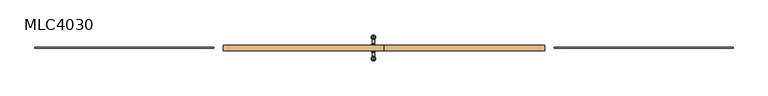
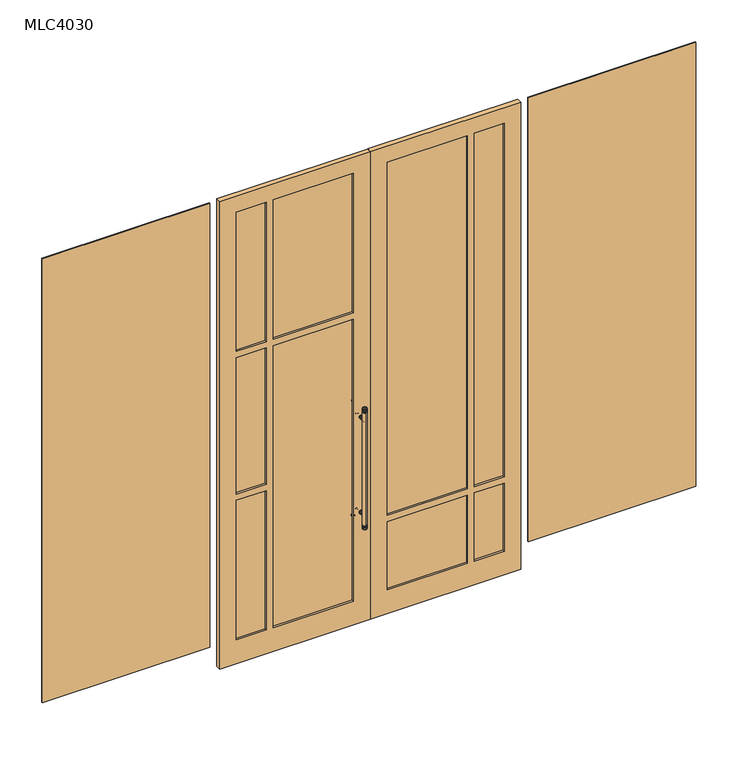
"""IFC4 building model written with IfcOpenShell, lengths in millimetres: door geometry, 双面嵌板连窗玻璃门 4 : MLC4030."""

from ifc_helpers import new_model, si_unit, point, frame, origin, place, context, project, spatial, polyline, circle_curve, ellipse_curve, trimmed, outline, extrude, source, transform, mapped, element, save
from ifc_brep_helpers import plane_surface, cylinder_surface, revolved_surface, advanced_brep


def mlc4030_f3af6898(model_context):
    return source(origin(), model_context, "Body", "SolidModel", [
        advanced_brep(
        [(-59.0, 15.0, 1300.0), (-67.0, 15.0, 1300.0), (-51.0, 15.0, 1300.0), (-51.0, 24.0, 1300.0), (-67.0, 24.0, 1300.0), (-59.0, 24.0, 1300.0), (-51.0, 21.0, 1300.0), (-67.0, 21.0, 1300.0), (-51.0, 18.0, 1300.0), (-67.0, 18.0, 1300.0)],
        [
            (0, 1),
            (1, 2, circle_curve(frame((-59.0, 15.0, 1300.0), z_axis=(0.0, -1.0, 0.0), x_axis=(-1.0, 0.0, 0.0)), 8.0)),
            (2, 0),
            (2, 1, circle_curve(frame((-59.0, 15.0, 1300.0), z_axis=(0.0, -1.0, 0.0), x_axis=(-1.0, 0.0, 0.0)), 8.0)),
            (3, 4, circle_curve(frame((-59.0, 24.0, 1300.0), z_axis=(0.0, 1.0, 0.0), x_axis=(-1.0, 0.0, 0.0)), 8.0)),
            (4, 5),
            (5, 3),
            (4, 3, circle_curve(frame((-59.0, 24.0, 1300.0), z_axis=(0.0, 1.0, 0.0), x_axis=(-1.0, 0.0, 0.0)), 8.0)),
            (6, 7, circle_curve(frame((-59.0, 21.0, 1300.0), z_axis=(0.0, 1.0, 0.0), x_axis=(-1.0, 0.0, 0.0)), 8.0)),
            (7, 4, circle_curve(frame((-65.6771243, 22.5, 1300.0), z_axis=(0.0, 0.0, -1.0), x_axis=(-1.0, 0.0, 0.0)), 2.0)),
            (3, 6, circle_curve(frame((-52.3228757, 22.5, 1300.0), z_axis=(0.0, 0.0, -1.0), x_axis=(1.0, 0.0, 0.0)), 2.0)),
            (7, 6, circle_curve(frame((-59.0, 21.0, 1300.0), z_axis=(0.0, 1.0, 0.0), x_axis=(-1.0, 0.0, 0.0)), 8.0)),
            (8, 9, circle_curve(frame((-59.0, 18.0, 1300.0), z_axis=(0.0, 1.0, 0.0), x_axis=(-1.0, 0.0, 0.0)), 8.0)),
            (9, 7, circle_curve(frame((-65.6771243, 19.5, 1300.0), z_axis=(0.0, 0.0, -1.0), x_axis=(-1.0, 0.0, 0.0)), 2.0)),
            (6, 8, circle_curve(frame((-52.3228757, 19.5, 1300.0), z_axis=(0.0, 0.0, -1.0), x_axis=(1.0, 0.0, 0.0)), 2.0)),
            (9, 8, circle_curve(frame((-59.0, 18.0, 1300.0), z_axis=(0.0, 1.0, 0.0), x_axis=(-1.0, 0.0, 0.0)), 8.0)),
            (1, 9, circle_curve(frame((-65.6771243, 16.5, 1300.0), z_axis=(0.0, 0.0, -1.0), x_axis=(-1.0, 0.0, 0.0)), 2.0)),
            (8, 2, circle_curve(frame((-52.3228757, 16.5, 1300.0), z_axis=(0.0, 0.0, -1.0), x_axis=(1.0, 0.0, 0.0)), 2.0)),
        ],
        [
            plane_surface(frame((-59.0, 15.0, 1300.0), z_axis=(0.0, -1.0, 0.0), x_axis=(-1.0, 0.0, 0.0))),
            plane_surface(frame((-59.0, 24.0, 1300.0), z_axis=(0.0, 1.0, 0.0), x_axis=(-1.0, 0.0, 0.0))),
            revolved_surface(trimmed(ellipse_curve(frame((-65.6771243, 22.5, 1300.0), z_axis=(0.0, 0.0, 1.0), x_axis=(-1.0, 0.0, 0.0)), 2.0, 2.0), [point((-67.0, 24.0, 1300.0))], [point((-67.0, 21.0, 1300.0))], True, "CARTESIAN"), (-59.0, -105.0, 1300.0), (0.0, -1.0, 0.0)),
            revolved_surface(trimmed(ellipse_curve(frame((-65.6771243, 19.5, 1300.0), z_axis=(0.0, 0.0, 1.0), x_axis=(-1.0, 0.0, 0.0)), 2.0, 2.0), [point((-67.0, 21.0, 1300.0))], [point((-67.0, 18.0, 1300.0))], True, "CARTESIAN"), (-59.0, -105.0, 1300.0), (0.0, -1.0, 0.0)),
            revolved_surface(trimmed(ellipse_curve(frame((-65.6771243, 16.5, 1300.0), z_axis=(0.0, 0.0, 1.0), x_axis=(-1.0, 0.0, 0.0)), 2.0, 2.0), [point((-67.0, 18.0, 1300.0))], [point((-67.0, 15.0, 1300.0))], True, "CARTESIAN"), (-59.0, -105.0, 1300.0), (0.0, -1.0, 0.0)),
        ],
        [
            (0, [[1, 2, 3]]),
            (0, [[-3, 4, -1]]),
            (1, [[5, 6, 7]]),
            (1, [[8, -7, -6]]),
            (2, [[9, 10, -5, 11]]),
            (2, [[12, -11, -8, -10]]),
            (3, [[13, 14, -9, 15]]),
            (3, [[16, -15, -12, -14]]),
            (4, [[-2, 17, -13, 18]]),
            (4, [[-4, -18, -16, -17]]),
        ],
    ),
        advanced_brep(
        [(-51.0, -18.0, 1300.0), (-67.0, -18.0, 1300.0), (-67.0, -15.0, 1300.0), (-51.0, -15.0, 1300.0), (-51.0, -21.0, 1300.0), (-67.0, -21.0, 1300.0), (-51.0, -24.0, 1300.0), (-67.0, -24.0, 1300.0), (-59.0, -24.0, 1300.0), (-59.0, -15.0, 1300.0)],
        [
            (0, 1, circle_curve(frame((-59.0, -18.0, 1300.0), z_axis=(0.0, 1.0, 0.0), x_axis=(-1.0, 0.0, 0.0)), 8.0)),
            (1, 2, circle_curve(frame((-65.6771243, -16.5, 1300.0), z_axis=(0.0, 0.0, -1.0), x_axis=(-1.0, 0.0, 0.0)), 2.0)),
            (2, 3, circle_curve(frame((-59.0, -15.0, 1300.0), z_axis=(0.0, -1.0, 0.0), x_axis=(-1.0, 0.0, 0.0)), 8.0)),
            (3, 0, circle_curve(frame((-52.3228757, -16.5, 1300.0), z_axis=(0.0, 0.0, -1.0), x_axis=(1.0, 0.0, 0.0)), 2.0)),
            (1, 0, circle_curve(frame((-59.0, -18.0, 1300.0), z_axis=(0.0, 1.0, 0.0), x_axis=(-1.0, 0.0, 0.0)), 8.0)),
            (3, 2, circle_curve(frame((-59.0, -15.0, 1300.0), z_axis=(0.0, -1.0, 0.0), x_axis=(-1.0, 0.0, 0.0)), 8.0)),
            (4, 5, circle_curve(frame((-59.0, -21.0, 1300.0), z_axis=(0.0, 1.0, 0.0), x_axis=(-1.0, 0.0, 0.0)), 8.0)),
            (5, 1, circle_curve(frame((-65.6771243, -19.5, 1300.0), z_axis=(0.0, 0.0, -1.0), x_axis=(-1.0, 0.0, 0.0)), 2.0)),
            (0, 4, circle_curve(frame((-52.3228757, -19.5, 1300.0), z_axis=(0.0, 0.0, -1.0), x_axis=(1.0, 0.0, 0.0)), 2.0)),
            (5, 4, circle_curve(frame((-59.0, -21.0, 1300.0), z_axis=(0.0, 1.0, 0.0), x_axis=(-1.0, 0.0, 0.0)), 8.0)),
            (6, 7, circle_curve(frame((-59.0, -24.0, 1300.0), z_axis=(0.0, 1.0, 0.0), x_axis=(-1.0, 0.0, 0.0)), 8.0)),
            (7, 5, circle_curve(frame((-65.6771243, -22.5, 1300.0), z_axis=(0.0, 0.0, -1.0), x_axis=(-1.0, 0.0, 0.0)), 2.0)),
            (4, 6, circle_curve(frame((-52.3228757, -22.5, 1300.0), z_axis=(0.0, 0.0, -1.0), x_axis=(1.0, 0.0, 0.0)), 2.0)),
            (7, 6, circle_curve(frame((-59.0, -24.0, 1300.0), z_axis=(0.0, 1.0, 0.0), x_axis=(-1.0, 0.0, 0.0)), 8.0)),
            (8, 7),
            (6, 8),
            (2, 9),
            (9, 3),
        ],
        [
            revolved_surface(trimmed(ellipse_curve(frame((-65.6771243, -16.5, 1300.0), z_axis=(0.0, 0.0, 1.0), x_axis=(-1.0, 0.0, 0.0)), 2.0, 2.0), [point((-67.0, -15.0, 1300.0))], [point((-67.0, -18.0, 1300.0))], True, "CARTESIAN"), (-59.0, -105.0, 1300.0), (0.0, -1.0, 0.0)),
            revolved_surface(trimmed(ellipse_curve(frame((-65.6771243, -19.5, 1300.0), z_axis=(0.0, 0.0, 1.0), x_axis=(-1.0, 0.0, 0.0)), 2.0, 2.0), [point((-67.0, -18.0, 1300.0))], [point((-67.0, -21.0, 1300.0))], True, "CARTESIAN"), (-59.0, -105.0, 1300.0), (0.0, -1.0, 0.0)),
            revolved_surface(trimmed(ellipse_curve(frame((-65.6771243, -22.5, 1300.0), z_axis=(0.0, 0.0, 1.0), x_axis=(-1.0, 0.0, 0.0)), 2.0, 2.0), [point((-67.0, -21.0, 1300.0))], [point((-67.0, -24.0, 1300.0))], True, "CARTESIAN"), (-59.0, -105.0, 1300.0), (0.0, -1.0, 0.0)),
            plane_surface(frame((-59.0, -24.0, 1300.0), z_axis=(0.0, -1.0, 0.0), x_axis=(-1.0, 0.0, 0.0))),
            plane_surface(frame((-59.0, -15.0, 1300.0), z_axis=(0.0, 1.0, 0.0), x_axis=(-1.0, 0.0, 0.0))),
        ],
        [
            (0, [[1, 2, 3, 4]]),
            (0, [[5, -4, 6, -2]]),
            (1, [[7, 8, -1, 9]]),
            (1, [[10, -9, -5, -8]]),
            (2, [[11, 12, -7, 13]]),
            (2, [[14, -13, -10, -12]]),
            (3, [[15, -11, 16]]),
            (3, [[-16, -14, -15]]),
            (4, [[-3, 17, 18]]),
            (4, [[-6, -18, -17]]),
        ],
    ),
        advanced_brep(
        [(-59.0, 15.0, 700.0), (-67.0, 15.0, 700.0), (-51.0, 15.0, 700.0), (-51.0, 24.0, 700.0), (-67.0, 24.0, 700.0), (-59.0, 24.0, 700.0), (-51.0, 21.0, 700.0), (-67.0, 21.0, 700.0), (-51.0, 18.0, 700.0), (-67.0, 18.0, 700.0)],
        [
            (0, 1),
            (1, 2, circle_curve(frame((-59.0, 15.0, 700.0), z_axis=(0.0, -1.0, 0.0), x_axis=(-1.0, 0.0, 0.0)), 8.0)),
            (2, 0),
            (2, 1, circle_curve(frame((-59.0, 15.0, 700.0), z_axis=(0.0, -1.0, 0.0), x_axis=(-1.0, 0.0, 0.0)), 8.0)),
            (3, 4, circle_curve(frame((-59.0, 24.0, 700.0), z_axis=(0.0, 1.0, 0.0), x_axis=(-1.0, 0.0, 0.0)), 8.0)),
            (4, 5),
            (5, 3),
            (4, 3, circle_curve(frame((-59.0, 24.0, 700.0), z_axis=(0.0, 1.0, 0.0), x_axis=(-1.0, 0.0, 0.0)), 8.0)),
            (6, 7, circle_curve(frame((-59.0, 21.0, 700.0), z_axis=(0.0, 1.0, 0.0), x_axis=(-1.0, 0.0, 0.0)), 8.0)),
            (7, 4, circle_curve(frame((-65.6771243, 22.5, 700.0), z_axis=(0.0, 0.0, -1.0), x_axis=(-1.0, 0.0, 0.0)), 2.0)),
            (3, 6, circle_curve(frame((-52.3228757, 22.5, 700.0), z_axis=(0.0, 0.0, -1.0), x_axis=(1.0, 0.0, 0.0)), 2.0)),
            (7, 6, circle_curve(frame((-59.0, 21.0, 700.0), z_axis=(0.0, 1.0, 0.0), x_axis=(-1.0, 0.0, 0.0)), 8.0)),
            (8, 9, circle_curve(frame((-59.0, 18.0, 700.0), z_axis=(0.0, 1.0, 0.0), x_axis=(-1.0, 0.0, 0.0)), 8.0)),
            (9, 7, circle_curve(frame((-65.6771243, 19.5, 700.0), z_axis=(0.0, 0.0, -1.0), x_axis=(-1.0, 0.0, 0.0)), 2.0)),
            (6, 8, circle_curve(frame((-52.3228757, 19.5, 700.0), z_axis=(0.0, 0.0, -1.0), x_axis=(1.0, 0.0, 0.0)), 2.0)),
            (9, 8, circle_curve(frame((-59.0, 18.0, 700.0), z_axis=(0.0, 1.0, 0.0), x_axis=(-1.0, 0.0, 0.0)), 8.0)),
            (1, 9, circle_curve(frame((-65.6771243, 16.5, 700.0), z_axis=(0.0, 0.0, -1.0), x_axis=(-1.0, 0.0, 0.0)), 2.0)),
            (8, 2, circle_curve(frame((-52.3228757, 16.5, 700.0), z_axis=(0.0, 0.0, -1.0), x_axis=(1.0, 0.0, 0.0)), 2.0)),
        ],
        [
            plane_surface(frame((-59.0, 15.0, 700.0), z_axis=(0.0, -1.0, 0.0), x_axis=(-1.0, 0.0, 0.0))),
            plane_surface(frame((-59.0, 24.0, 700.0), z_axis=(0.0, 1.0, 0.0), x_axis=(-1.0, 0.0, 0.0))),
            revolved_surface(trimmed(ellipse_curve(frame((-65.6771243, 22.5, 700.0), z_axis=(0.0, 0.0, 1.0), x_axis=(-1.0, 0.0, 0.0)), 2.0, 2.0), [point((-67.0, 24.0, 700.0))], [point((-67.0, 21.0, 700.0))], True, "CARTESIAN"), (-59.0, -105.0, 700.0), (0.0, -1.0, 0.0)),
            revolved_surface(trimmed(ellipse_curve(frame((-65.6771243, 19.5, 700.0), z_axis=(0.0, 0.0, 1.0), x_axis=(-1.0, 0.0, 0.0)), 2.0, 2.0), [point((-67.0, 21.0, 700.0))], [point((-67.0, 18.0, 700.0))], True, "CARTESIAN"), (-59.0, -105.0, 700.0), (0.0, -1.0, 0.0)),
            revolved_surface(trimmed(ellipse_curve(frame((-65.6771243, 16.5, 700.0), z_axis=(0.0, 0.0, 1.0), x_axis=(-1.0, 0.0, 0.0)), 2.0, 2.0), [point((-67.0, 18.0, 700.0))], [point((-67.0, 15.0, 700.0))], True, "CARTESIAN"), (-59.0, -105.0, 700.0), (0.0, -1.0, 0.0)),
        ],
        [
            (0, [[1, 2, 3]]),
            (0, [[-3, 4, -1]]),
            (1, [[5, 6, 7]]),
            (1, [[8, -7, -6]]),
            (2, [[9, 10, -5, 11]]),
            (2, [[12, -11, -8, -10]]),
            (3, [[13, 14, -9, 15]]),
            (3, [[16, -15, -12, -14]]),
            (4, [[-2, 17, -13, 18]]),
            (4, [[-4, -18, -16, -17]]),
        ],
    ),
        advanced_brep(
        [(-51.0, -18.0, 700.0), (-67.0, -18.0, 700.0), (-67.0, -15.0, 700.0), (-51.0, -15.0, 700.0), (-51.0, -21.0, 700.0), (-67.0, -21.0, 700.0), (-51.0, -24.0, 700.0), (-67.0, -24.0, 700.0), (-59.0, -24.0, 700.0), (-59.0, -15.0, 700.0)],
        [
            (0, 1, circle_curve(frame((-59.0, -18.0, 700.0), z_axis=(0.0, 1.0, 0.0), x_axis=(-1.0, 0.0, 0.0)), 8.0)),
            (1, 2, circle_curve(frame((-65.6771243, -16.5, 700.0), z_axis=(0.0, 0.0, -1.0), x_axis=(-1.0, 0.0, 0.0)), 2.0)),
            (2, 3, circle_curve(frame((-59.0, -15.0, 700.0), z_axis=(0.0, -1.0, 0.0), x_axis=(-1.0, 0.0, 0.0)), 8.0)),
            (3, 0, circle_curve(frame((-52.3228757, -16.5, 700.0), z_axis=(0.0, 0.0, -1.0), x_axis=(1.0, 0.0, 0.0)), 2.0)),
            (1, 0, circle_curve(frame((-59.0, -18.0, 700.0), z_axis=(0.0, 1.0, 0.0), x_axis=(-1.0, 0.0, 0.0)), 8.0)),
            (3, 2, circle_curve(frame((-59.0, -15.0, 700.0), z_axis=(0.0, -1.0, 0.0), x_axis=(-1.0, 0.0, 0.0)), 8.0)),
            (4, 5, circle_curve(frame((-59.0, -21.0, 700.0), z_axis=(0.0, 1.0, 0.0), x_axis=(-1.0, 0.0, 0.0)), 8.0)),
            (5, 1, circle_curve(frame((-65.6771243, -19.5, 700.0), z_axis=(0.0, 0.0, -1.0), x_axis=(-1.0, 0.0, 0.0)), 2.0)),
            (0, 4, circle_curve(frame((-52.3228757, -19.5, 700.0), z_axis=(0.0, 0.0, -1.0), x_axis=(1.0, 0.0, 0.0)), 2.0)),
            (5, 4, circle_curve(frame((-59.0, -21.0, 700.0), z_axis=(0.0, 1.0, 0.0), x_axis=(-1.0, 0.0, 0.0)), 8.0)),
            (6, 7, circle_curve(frame((-59.0, -24.0, 700.0), z_axis=(0.0, 1.0, 0.0), x_axis=(-1.0, 0.0, 0.0)), 8.0)),
            (7, 5, circle_curve(frame((-65.6771243, -22.5, 700.0), z_axis=(0.0, 0.0, -1.0), x_axis=(-1.0, 0.0, 0.0)), 2.0)),
            (4, 6, circle_curve(frame((-52.3228757, -22.5, 700.0), z_axis=(0.0, 0.0, -1.0), x_axis=(1.0, 0.0, 0.0)), 2.0)),
            (7, 6, circle_curve(frame((-59.0, -24.0, 700.0), z_axis=(0.0, 1.0, 0.0), x_axis=(-1.0, 0.0, 0.0)), 8.0)),
            (8, 7),
            (6, 8),
            (2, 9),
            (9, 3),
        ],
        [
            revolved_surface(trimmed(ellipse_curve(frame((-65.6771243, -16.5, 700.0), z_axis=(0.0, 0.0, 1.0), x_axis=(-1.0, 0.0, 0.0)), 2.0, 2.0), [point((-67.0, -15.0, 700.0))], [point((-67.0, -18.0, 700.0))], True, "CARTESIAN"), (-59.0, -105.0, 700.0), (0.0, -1.0, 0.0)),
            revolved_surface(trimmed(ellipse_curve(frame((-65.6771243, -19.5, 700.0), z_axis=(0.0, 0.0, 1.0), x_axis=(-1.0, 0.0, 0.0)), 2.0, 2.0), [point((-67.0, -18.0, 700.0))], [point((-67.0, -21.0, 700.0))], True, "CARTESIAN"), (-59.0, -105.0, 700.0), (0.0, -1.0, 0.0)),
            revolved_surface(trimmed(ellipse_curve(frame((-65.6771243, -22.5, 700.0), z_axis=(0.0, 0.0, 1.0), x_axis=(-1.0, 0.0, 0.0)), 2.0, 2.0), [point((-67.0, -21.0, 700.0))], [point((-67.0, -24.0, 700.0))], True, "CARTESIAN"), (-59.0, -105.0, 700.0), (0.0, -1.0, 0.0)),
            plane_surface(frame((-59.0, -24.0, 700.0), z_axis=(0.0, -1.0, 0.0), x_axis=(-1.0, 0.0, 0.0))),
            plane_surface(frame((-59.0, -15.0, 700.0), z_axis=(0.0, 1.0, 0.0), x_axis=(-1.0, 0.0, 0.0))),
        ],
        [
            (0, [[1, 2, 3, 4]]),
            (0, [[5, -4, 6, -2]]),
            (1, [[7, 8, -1, 9]]),
            (1, [[10, -9, -5, -8]]),
            (2, [[11, 12, -7, 13]]),
            (2, [[14, -13, -10, -12]]),
            (3, [[15, -11, 16]]),
            (3, [[-16, -14, -15]]),
            (4, [[-3, 17, 18]]),
            (4, [[-6, -18, -17]]),
        ],
    ),
        advanced_brep(
        [(-59.0, 48.0, 1356.0), (-59.0, 72.0, 1356.0), (-59.0, 60.0, 1356.0), (-59.0, 48.0, 1359.0), (-59.0, 72.0, 1359.0), (-59.0, 48.0, 1362.0), (-59.0, 72.0, 1362.0), (-59.0, 48.0, 1365.0), (-59.0, 72.0, 1365.0), (-59.0, 48.0, 1368.0), (-59.0, 72.0, 1368.0), (-59.0, 60.0, 1368.0)],
        [
            (0, 1, circle_curve(frame((-59.0, 60.0, 1356.0), z_axis=(0.0, 0.0, -1.0), x_axis=(0.0, 1.0, 0.0)), 12.0)),
            (1, 2),
            (2, 0),
            (1, 0, circle_curve(frame((-59.0, 60.0, 1356.0), z_axis=(0.0, 0.0, -1.0), x_axis=(0.0, 1.0, 0.0)), 12.0)),
            (3, 4, circle_curve(frame((-59.0, 60.0, 1359.0), z_axis=(0.0, 0.0, -1.0), x_axis=(0.0, 1.0, 0.0)), 12.0)),
            (4, 1, circle_curve(frame((-59.0, 70.6771243, 1357.5), z_axis=(-1.0, 0.0, 0.0), x_axis=(0.0, 1.0, 0.0)), 2.0)),
            (0, 3, circle_curve(frame((-59.0, 49.3228757, 1357.5), z_axis=(-1.0, 0.0, 0.0), x_axis=(0.0, -1.0, 0.0)), 2.0)),
            (4, 3, circle_curve(frame((-59.0, 60.0, 1359.0), z_axis=(0.0, 0.0, -1.0), x_axis=(0.0, 1.0, 0.0)), 12.0)),
            (5, 6, circle_curve(frame((-59.0, 60.0, 1362.0), z_axis=(0.0, 0.0, -1.0), x_axis=(0.0, 1.0, 0.0)), 12.0)),
            (6, 4, circle_curve(frame((-59.0, 70.6771243, 1360.5), z_axis=(-1.0, 0.0, 0.0), x_axis=(0.0, 1.0, 0.0)), 2.0)),
            (3, 5, circle_curve(frame((-59.0, 49.3228757, 1360.5), z_axis=(-1.0, 0.0, 0.0), x_axis=(0.0, -1.0, 0.0)), 2.0)),
            (6, 5, circle_curve(frame((-59.0, 60.0, 1362.0), z_axis=(0.0, 0.0, -1.0), x_axis=(0.0, 1.0, 0.0)), 12.0)),
            (7, 8, circle_curve(frame((-59.0, 60.0, 1365.0), z_axis=(0.0, 0.0, -1.0), x_axis=(0.0, 1.0, 0.0)), 12.0)),
            (8, 6, circle_curve(frame((-59.0, 70.6771243, 1363.5), z_axis=(-1.0, 0.0, 0.0), x_axis=(0.0, 1.0, 0.0)), 2.0)),
            (5, 7, circle_curve(frame((-59.0, 49.3228757, 1363.5), z_axis=(-1.0, 0.0, 0.0), x_axis=(0.0, -1.0, 0.0)), 2.0)),
            (8, 7, circle_curve(frame((-59.0, 60.0, 1365.0), z_axis=(0.0, 0.0, -1.0), x_axis=(0.0, 1.0, 0.0)), 12.0)),
            (9, 10, circle_curve(frame((-59.0, 60.0, 1368.0), z_axis=(0.0, 0.0, -1.0), x_axis=(0.0, 1.0, 0.0)), 12.0)),
            (10, 8, circle_curve(frame((-59.0, 70.6771243, 1366.5), z_axis=(-1.0, 0.0, 0.0), x_axis=(0.0, 1.0, 0.0)), 2.0)),
            (7, 9, circle_curve(frame((-59.0, 49.3228757, 1366.5), z_axis=(-1.0, 0.0, 0.0), x_axis=(0.0, -1.0, 0.0)), 2.0)),
            (10, 9, circle_curve(frame((-59.0, 60.0, 1368.0), z_axis=(0.0, 0.0, -1.0), x_axis=(0.0, 1.0, 0.0)), 12.0)),
            (11, 10),
            (9, 11),
        ],
        [
            plane_surface(frame((-59.0, 60.0, 1356.0), z_axis=(0.0, 0.0, -1.0), x_axis=(0.0, 1.0, 0.0))),
            revolved_surface(trimmed(ellipse_curve(frame((-59.0, 70.6771243, 1357.5), z_axis=(1.0, 0.0, 0.0), x_axis=(0.0, 1.0, 0.0)), 2.0, 2.0), [point((-59.0, 72.0, 1356.0))], [point((-59.0, 72.0, 1359.0))], True, "CARTESIAN"), (-59.0, 60.0, 690.0), (0.0, 0.0, 1.0)),
            revolved_surface(trimmed(ellipse_curve(frame((-59.0, 70.6771243, 1360.5), z_axis=(1.0, 0.0, 0.0), x_axis=(0.0, 1.0, 0.0)), 2.0, 2.0), [point((-59.0, 72.0, 1359.0))], [point((-59.0, 72.0, 1362.0))], True, "CARTESIAN"), (-59.0, 60.0, 690.0), (0.0, 0.0, 1.0)),
            revolved_surface(trimmed(ellipse_curve(frame((-59.0, 70.6771243, 1363.5), z_axis=(1.0, 0.0, 0.0), x_axis=(0.0, 1.0, 0.0)), 2.0, 2.0), [point((-59.0, 72.0, 1362.0))], [point((-59.0, 72.0, 1365.0))], True, "CARTESIAN"), (-59.0, 60.0, 690.0), (0.0, 0.0, 1.0)),
            revolved_surface(trimmed(ellipse_curve(frame((-59.0, 70.6771243, 1366.5), z_axis=(1.0, 0.0, 0.0), x_axis=(0.0, 1.0, 0.0)), 2.0, 2.0), [point((-59.0, 72.0, 1365.0))], [point((-59.0, 72.0, 1368.0))], True, "CARTESIAN"), (-59.0, 60.0, 690.0), (0.0, 0.0, 1.0)),
            plane_surface(frame((-59.0, 60.0, 1368.0), z_axis=(0.0, 0.0, 1.0), x_axis=(0.0, 1.0, 0.0))),
        ],
        [
            (0, [[1, 2, 3]]),
            (0, [[4, -3, -2]]),
            (1, [[5, 6, -1, 7]]),
            (1, [[8, -7, -4, -6]]),
            (2, [[9, 10, -5, 11]]),
            (2, [[12, -11, -8, -10]]),
            (3, [[13, 14, -9, 15]]),
            (3, [[16, -15, -12, -14]]),
            (4, [[17, 18, -13, 19]]),
            (4, [[20, -19, -16, -18]]),
            (5, [[21, -17, 22]]),
            (5, [[-22, -20, -21]]),
        ],
    ),
        advanced_brep(
        [(-59.0, 48.0, 632.0), (-59.0, 72.0, 632.0), (-59.0, 60.0, 632.0), (-59.0, 48.0, 635.0), (-59.0, 72.0, 635.0), (-59.0, 48.0, 638.0), (-59.0, 72.0, 638.0), (-59.0, 48.0, 641.0), (-59.0, 72.0, 641.0), (-59.0, 48.0, 644.0), (-59.0, 72.0, 644.0), (-59.0, 60.0, 644.0)],
        [
            (0, 1, circle_curve(frame((-59.0, 60.0, 632.0), z_axis=(0.0, 0.0, -1.0), x_axis=(0.0, 1.0, 0.0)), 12.0)),
            (1, 2),
            (2, 0),
            (1, 0, circle_curve(frame((-59.0, 60.0, 632.0), z_axis=(0.0, 0.0, -1.0), x_axis=(0.0, 1.0, 0.0)), 12.0)),
            (3, 4, circle_curve(frame((-59.0, 60.0, 635.0), z_axis=(0.0, 0.0, -1.0), x_axis=(0.0, 1.0, 0.0)), 12.0)),
            (4, 1, circle_curve(frame((-59.0, 70.6771243, 633.5), z_axis=(-1.0, 0.0, 0.0), x_axis=(0.0, 1.0, 0.0)), 2.0)),
            (0, 3, circle_curve(frame((-59.0, 49.3228757, 633.5), z_axis=(-1.0, 0.0, 0.0), x_axis=(0.0, -1.0, 0.0)), 2.0)),
            (4, 3, circle_curve(frame((-59.0, 60.0, 635.0), z_axis=(0.0, 0.0, -1.0), x_axis=(0.0, 1.0, 0.0)), 12.0)),
            (5, 6, circle_curve(frame((-59.0, 60.0, 638.0), z_axis=(0.0, 0.0, -1.0), x_axis=(0.0, 1.0, 0.0)), 12.0)),
            (6, 4, circle_curve(frame((-59.0, 70.6771243, 636.5), z_axis=(-1.0, 0.0, 0.0), x_axis=(0.0, 1.0, 0.0)), 2.0)),
            (3, 5, circle_curve(frame((-59.0, 49.3228757, 636.5), z_axis=(-1.0, 0.0, 0.0), x_axis=(0.0, -1.0, 0.0)), 2.0)),
            (6, 5, circle_curve(frame((-59.0, 60.0, 638.0), z_axis=(0.0, 0.0, -1.0), x_axis=(0.0, 1.0, 0.0)), 12.0)),
            (7, 8, circle_curve(frame((-59.0, 60.0, 641.0), z_axis=(0.0, 0.0, -1.0), x_axis=(0.0, 1.0, 0.0)), 12.0)),
            (8, 6, circle_curve(frame((-59.0, 70.6771243, 639.5), z_axis=(-1.0, 0.0, 0.0), x_axis=(0.0, 1.0, 0.0)), 2.0)),
            (5, 7, circle_curve(frame((-59.0, 49.3228757, 639.5), z_axis=(-1.0, 0.0, 0.0), x_axis=(0.0, -1.0, 0.0)), 2.0)),
            (8, 7, circle_curve(frame((-59.0, 60.0, 641.0), z_axis=(0.0, 0.0, -1.0), x_axis=(0.0, 1.0, 0.0)), 12.0)),
            (9, 10, circle_curve(frame((-59.0, 60.0, 644.0), z_axis=(0.0, 0.0, -1.0), x_axis=(0.0, 1.0, 0.0)), 12.0)),
            (10, 8, circle_curve(frame((-59.0, 70.6771243, 642.5), z_axis=(-1.0, 0.0, 0.0), x_axis=(0.0, 1.0, 0.0)), 2.0)),
            (7, 9, circle_curve(frame((-59.0, 49.3228757, 642.5), z_axis=(-1.0, 0.0, 0.0), x_axis=(0.0, -1.0, 0.0)), 2.0)),
            (10, 9, circle_curve(frame((-59.0, 60.0, 644.0), z_axis=(0.0, 0.0, -1.0), x_axis=(0.0, 1.0, 0.0)), 12.0)),
            (11, 10),
            (9, 11),
        ],
        [
            plane_surface(frame((-59.0, 60.0, 632.0), z_axis=(0.0, 0.0, -1.0), x_axis=(0.0, 1.0, 0.0))),
            revolved_surface(trimmed(ellipse_curve(frame((-59.0, 70.6771243, 633.5), z_axis=(1.0, 0.0, 0.0), x_axis=(0.0, 1.0, 0.0)), 2.0, 2.0), [point((-59.0, 72.0, 632.0))], [point((-59.0, 72.0, 635.0))], True, "CARTESIAN"), (-59.0, 60.0, 690.0), (0.0, 0.0, 1.0)),
            revolved_surface(trimmed(ellipse_curve(frame((-59.0, 70.6771243, 636.5), z_axis=(1.0, 0.0, 0.0), x_axis=(0.0, 1.0, 0.0)), 2.0, 2.0), [point((-59.0, 72.0, 635.0))], [point((-59.0, 72.0, 638.0))], True, "CARTESIAN"), (-59.0, 60.0, 690.0), (0.0, 0.0, 1.0)),
            revolved_surface(trimmed(ellipse_curve(frame((-59.0, 70.6771243, 639.5), z_axis=(1.0, 0.0, 0.0), x_axis=(0.0, 1.0, 0.0)), 2.0, 2.0), [point((-59.0, 72.0, 638.0))], [point((-59.0, 72.0, 641.0))], True, "CARTESIAN"), (-59.0, 60.0, 690.0), (0.0, 0.0, 1.0)),
            revolved_surface(trimmed(ellipse_curve(frame((-59.0, 70.6771243, 642.5), z_axis=(1.0, 0.0, 0.0), x_axis=(0.0, 1.0, 0.0)), 2.0, 2.0), [point((-59.0, 72.0, 641.0))], [point((-59.0, 72.0, 644.0))], True, "CARTESIAN"), (-59.0, 60.0, 690.0), (0.0, 0.0, 1.0)),
            plane_surface(frame((-59.0, 60.0, 644.0), z_axis=(0.0, 0.0, 1.0), x_axis=(0.0, 1.0, 0.0))),
        ],
        [
            (0, [[1, 2, 3]]),
            (0, [[4, -3, -2]]),
            (1, [[5, 6, -1, 7]]),
            (1, [[8, -7, -4, -6]]),
            (2, [[9, 10, -5, 11]]),
            (2, [[12, -11, -8, -10]]),
            (3, [[13, 14, -9, 15]]),
            (3, [[16, -15, -12, -14]]),
            (4, [[17, 18, -13, 19]]),
            (4, [[20, -19, -16, -18]]),
            (5, [[21, -17, 22]]),
            (5, [[-22, -20, -21]]),
        ],
    ),
        advanced_brep(
        [(-59.0, -48.0, 1364.8958565), (-59.0, -72.0, 1364.8958565), (-59.0, -72.0, 1367.8958565), (-59.0, -48.0, 1367.8958565), (-59.0, -48.0, 1361.8958565), (-59.0, -72.0, 1361.8958565), (-59.0, -48.0, 1358.8958565), (-59.0, -72.0, 1358.8958565), (-59.0, -48.0, 1355.8958565), (-59.0, -72.0, 1355.8958565), (-59.0, -60.0, 1355.8958565), (-59.0, -60.0, 1367.8958565)],
        [
            (0, 1, circle_curve(frame((-59.0, -60.0, 1364.8958565), z_axis=(0.0, 0.0, 1.0), x_axis=(0.0, -1.0, 0.0)), 12.0)),
            (1, 2, circle_curve(frame((-59.0, -70.6771243, 1366.3958565), z_axis=(-1.0, 0.0, 0.0), x_axis=(0.0, 1.0, 0.0)), 2.0)),
            (2, 3, circle_curve(frame((-59.0, -60.0, 1367.8958565), z_axis=(0.0, 0.0, -1.0), x_axis=(0.0, -1.0, 0.0)), 12.0)),
            (3, 0, circle_curve(frame((-59.0, -49.3228757, 1366.3958565), z_axis=(-1.0, 0.0, 0.0), x_axis=(0.0, -1.0, 0.0)), 2.0)),
            (1, 0, circle_curve(frame((-59.0, -60.0, 1364.8958565), z_axis=(0.0, 0.0, 1.0), x_axis=(0.0, -1.0, 0.0)), 12.0)),
            (3, 2, circle_curve(frame((-59.0, -60.0, 1367.8958565), z_axis=(0.0, 0.0, -1.0), x_axis=(0.0, -1.0, 0.0)), 12.0)),
            (4, 5, circle_curve(frame((-59.0, -60.0, 1361.8958565), z_axis=(0.0, 0.0, 1.0), x_axis=(0.0, -1.0, 0.0)), 12.0)),
            (5, 1, circle_curve(frame((-59.0, -70.6771243, 1363.3958565), z_axis=(-1.0, 0.0, 0.0), x_axis=(0.0, 1.0, 0.0)), 2.0)),
            (0, 4, circle_curve(frame((-59.0, -49.3228757, 1363.3958565), z_axis=(-1.0, 0.0, 0.0), x_axis=(0.0, -1.0, 0.0)), 2.0)),
            (5, 4, circle_curve(frame((-59.0, -60.0, 1361.8958565), z_axis=(0.0, 0.0, 1.0), x_axis=(0.0, -1.0, 0.0)), 12.0)),
            (6, 7, circle_curve(frame((-59.0, -60.0, 1358.8958565), z_axis=(0.0, 0.0, 1.0), x_axis=(0.0, -1.0, 0.0)), 12.0)),
            (7, 5, circle_curve(frame((-59.0, -70.6771243, 1360.3958565), z_axis=(-1.0, 0.0, 0.0), x_axis=(0.0, 1.0, 0.0)), 2.0)),
            (4, 6, circle_curve(frame((-59.0, -49.3228757, 1360.3958565), z_axis=(-1.0, 0.0, 0.0), x_axis=(0.0, -1.0, 0.0)), 2.0)),
            (7, 6, circle_curve(frame((-59.0, -60.0, 1358.8958565), z_axis=(0.0, 0.0, 1.0), x_axis=(0.0, -1.0, 0.0)), 12.0)),
            (8, 9, circle_curve(frame((-59.0, -60.0, 1355.8958565), z_axis=(0.0, 0.0, 1.0), x_axis=(0.0, -1.0, 0.0)), 12.0)),
            (9, 7, circle_curve(frame((-59.0, -70.6771243, 1357.3958565), z_axis=(-1.0, 0.0, 0.0), x_axis=(0.0, 1.0, 0.0)), 2.0)),
            (6, 8, circle_curve(frame((-59.0, -49.3228757, 1357.3958565), z_axis=(-1.0, 0.0, 0.0), x_axis=(0.0, -1.0, 0.0)), 2.0)),
            (9, 8, circle_curve(frame((-59.0, -60.0, 1355.8958565), z_axis=(0.0, 0.0, 1.0), x_axis=(0.0, -1.0, 0.0)), 12.0)),
            (10, 9),
            (8, 10),
            (2, 11),
            (11, 3),
        ],
        [
            revolved_surface(trimmed(ellipse_curve(frame((-59.0, -70.6771243, 1366.3958565), z_axis=(1.0, 0.0, 0.0), x_axis=(0.0, 1.0, 0.0)), 2.0, 2.0), [point((-59.0, -72.0, 1367.8958565))], [point((-59.0, -72.0, 1364.8958565))], True, "CARTESIAN"), (-59.0, -60.0, 690.0), (0.0, 0.0, -1.0)),
            revolved_surface(trimmed(ellipse_curve(frame((-59.0, -70.6771243, 1363.3958565), z_axis=(1.0, 0.0, 0.0), x_axis=(0.0, 1.0, 0.0)), 2.0, 2.0), [point((-59.0, -72.0, 1364.8958565))], [point((-59.0, -72.0, 1361.8958565))], True, "CARTESIAN"), (-59.0, -60.0, 690.0), (0.0, 0.0, -1.0)),
            revolved_surface(trimmed(ellipse_curve(frame((-59.0, -70.6771243, 1360.3958565), z_axis=(1.0, 0.0, 0.0), x_axis=(0.0, 1.0, 0.0)), 2.0, 2.0), [point((-59.0, -72.0, 1361.8958565))], [point((-59.0, -72.0, 1358.8958565))], True, "CARTESIAN"), (-59.0, -60.0, 690.0), (0.0, 0.0, -1.0)),
            revolved_surface(trimmed(ellipse_curve(frame((-59.0, -70.6771243, 1357.3958565), z_axis=(1.0, 0.0, 0.0), x_axis=(0.0, 1.0, 0.0)), 2.0, 2.0), [point((-59.0, -72.0, 1358.8958565))], [point((-59.0, -72.0, 1355.8958565))], True, "CARTESIAN"), (-59.0, -60.0, 690.0), (0.0, 0.0, -1.0)),
            plane_surface(frame((-59.0, -60.0, 1355.8958565), z_axis=(0.0, 0.0, -1.0), x_axis=(0.0, -1.0, 0.0))),
            plane_surface(frame((-59.0, -60.0, 1367.8958565), z_axis=(0.0, 0.0, 1.0), x_axis=(0.0, -1.0, 0.0))),
        ],
        [
            (0, [[1, 2, 3, 4]]),
            (0, [[5, -4, 6, -2]]),
            (1, [[7, 8, -1, 9]]),
            (1, [[10, -9, -5, -8]]),
            (2, [[11, 12, -7, 13]]),
            (2, [[14, -13, -10, -12]]),
            (3, [[15, 16, -11, 17]]),
            (3, [[18, -17, -14, -16]]),
            (4, [[19, -15, 20]]),
            (4, [[-20, -18, -19]]),
            (5, [[-3, 21, 22]]),
            (5, [[-6, -22, -21]]),
        ],
    ),
        advanced_brep(
        [(-59.0, -48.0, 644.0), (-59.0, -72.0, 644.0), (-59.0, -60.0, 644.0), (-59.0, -48.0, 641.0), (-59.0, -72.0, 641.0), (-59.0, -48.0, 638.0), (-59.0, -72.0, 638.0), (-59.0, -48.0, 635.0), (-59.0, -72.0, 635.0), (-59.0, -48.0, 632.0), (-59.0, -72.0, 632.0), (-59.0, -60.0, 632.0)],
        [
            (0, 1, circle_curve(frame((-59.0, -60.0, 644.0), z_axis=(0.0, 0.0, 1.0), x_axis=(0.0, -1.0, 0.0)), 12.0)),
            (1, 2),
            (2, 0),
            (1, 0, circle_curve(frame((-59.0, -60.0, 644.0), z_axis=(0.0, 0.0, 1.0), x_axis=(0.0, -1.0, 0.0)), 12.0)),
            (3, 4, circle_curve(frame((-59.0, -60.0, 641.0), z_axis=(0.0, 0.0, 1.0), x_axis=(0.0, -1.0, 0.0)), 12.0)),
            (4, 1, circle_curve(frame((-59.0, -70.6771243, 642.5), z_axis=(-1.0, 0.0, 0.0), x_axis=(0.0, 1.0, 0.0)), 2.0)),
            (0, 3, circle_curve(frame((-59.0, -49.3228757, 642.5), z_axis=(-1.0, 0.0, 0.0), x_axis=(0.0, -1.0, 0.0)), 2.0)),
            (4, 3, circle_curve(frame((-59.0, -60.0, 641.0), z_axis=(0.0, 0.0, 1.0), x_axis=(0.0, -1.0, 0.0)), 12.0)),
            (5, 6, circle_curve(frame((-59.0, -60.0, 638.0), z_axis=(0.0, 0.0, 1.0), x_axis=(0.0, -1.0, 0.0)), 12.0)),
            (6, 4, circle_curve(frame((-59.0, -70.6771243, 639.5), z_axis=(-1.0, 0.0, 0.0), x_axis=(0.0, 1.0, 0.0)), 2.0)),
            (3, 5, circle_curve(frame((-59.0, -49.3228757, 639.5), z_axis=(-1.0, 0.0, 0.0), x_axis=(0.0, -1.0, 0.0)), 2.0)),
            (6, 5, circle_curve(frame((-59.0, -60.0, 638.0), z_axis=(0.0, 0.0, 1.0), x_axis=(0.0, -1.0, 0.0)), 12.0)),
            (7, 8, circle_curve(frame((-59.0, -60.0, 635.0), z_axis=(0.0, 0.0, 1.0), x_axis=(0.0, -1.0, 0.0)), 12.0)),
            (8, 6, circle_curve(frame((-59.0, -70.6771243, 636.5), z_axis=(-1.0, 0.0, 0.0), x_axis=(0.0, 1.0, 0.0)), 2.0)),
            (5, 7, circle_curve(frame((-59.0, -49.3228757, 636.5), z_axis=(-1.0, 0.0, 0.0), x_axis=(0.0, -1.0, 0.0)), 2.0)),
            (8, 7, circle_curve(frame((-59.0, -60.0, 635.0), z_axis=(0.0, 0.0, 1.0), x_axis=(0.0, -1.0, 0.0)), 12.0)),
            (9, 10, circle_curve(frame((-59.0, -60.0, 632.0), z_axis=(0.0, 0.0, 1.0), x_axis=(0.0, -1.0, 0.0)), 12.0)),
            (10, 8, circle_curve(frame((-59.0, -70.6771243, 633.5), z_axis=(-1.0, 0.0, 0.0), x_axis=(0.0, 1.0, 0.0)), 2.0)),
            (7, 9, circle_curve(frame((-59.0, -49.3228757, 633.5), z_axis=(-1.0, 0.0, 0.0), x_axis=(0.0, -1.0, 0.0)), 2.0)),
            (10, 9, circle_curve(frame((-59.0, -60.0, 632.0), z_axis=(0.0, 0.0, 1.0), x_axis=(0.0, -1.0, 0.0)), 12.0)),
            (11, 10),
            (9, 11),
        ],
        [
            plane_surface(frame((-59.0, -60.0, 644.0), z_axis=(0.0, 0.0, 1.0), x_axis=(0.0, -1.0, 0.0))),
            revolved_surface(trimmed(ellipse_curve(frame((-59.0, -70.6771243, 642.5), z_axis=(1.0, 0.0, 0.0), x_axis=(0.0, 1.0, 0.0)), 2.0, 2.0), [point((-59.0, -72.0, 644.0))], [point((-59.0, -72.0, 641.0))], True, "CARTESIAN"), (-59.0, -60.0, 690.0), (0.0, 0.0, -1.0)),
            revolved_surface(trimmed(ellipse_curve(frame((-59.0, -70.6771243, 639.5), z_axis=(1.0, 0.0, 0.0), x_axis=(0.0, 1.0, 0.0)), 2.0, 2.0), [point((-59.0, -72.0, 641.0))], [point((-59.0, -72.0, 638.0))], True, "CARTESIAN"), (-59.0, -60.0, 690.0), (0.0, 0.0, -1.0)),
            revolved_surface(trimmed(ellipse_curve(frame((-59.0, -70.6771243, 636.5), z_axis=(1.0, 0.0, 0.0), x_axis=(0.0, 1.0, 0.0)), 2.0, 2.0), [point((-59.0, -72.0, 638.0))], [point((-59.0, -72.0, 635.0))], True, "CARTESIAN"), (-59.0, -60.0, 690.0), (0.0, 0.0, -1.0)),
            revolved_surface(trimmed(ellipse_curve(frame((-59.0, -70.6771243, 633.5), z_axis=(1.0, 0.0, 0.0), x_axis=(0.0, 1.0, 0.0)), 2.0, 2.0), [point((-59.0, -72.0, 635.0))], [point((-59.0, -72.0, 632.0))], True, "CARTESIAN"), (-59.0, -60.0, 690.0), (0.0, 0.0, -1.0)),
            plane_surface(frame((-59.0, -60.0, 632.0), z_axis=(0.0, 0.0, -1.0), x_axis=(0.0, -1.0, 0.0))),
        ],
        [
            (0, [[1, 2, 3]]),
            (0, [[4, -3, -2]]),
            (1, [[5, 6, -1, 7]]),
            (1, [[8, -7, -4, -6]]),
            (2, [[9, 10, -5, 11]]),
            (2, [[12, -11, -8, -10]]),
            (3, [[13, 14, -9, 15]]),
            (3, [[16, -15, -12, -14]]),
            (4, [[17, 18, -13, 19]]),
            (4, [[20, -19, -16, -18]]),
            (5, [[21, -17, 22]]),
            (5, [[-22, -20, -21]]),
        ],
    ),
        advanced_brep(
        [(-59.0, 48.0, 622.0), (-59.0, 72.0, 622.0), (-59.0, 70.0, 620.0), (-59.0, 50.0, 620.0), (-59.0, 48.0, 1378.0), (-59.0, 72.0, 1378.0), (-59.0, 50.0, 1380.0), (-59.0, 70.0, 1380.0), (-59.0, 60.0, 1380.0), (-59.0, 60.0, 620.0)],
        [
            (0, 1, circle_curve(frame((-59.0, 60.0, 622.0), z_axis=(0.0, 0.0, -1.0), x_axis=(0.0, 1.0, 0.0)), 12.0)),
            (1, 2, circle_curve(frame((-59.0, 70.0, 622.0), z_axis=(-1.0, 0.0, 0.0), x_axis=(0.0, 1.0, 0.0)), 2.0)),
            (2, 3, circle_curve(frame((-59.0, 60.0, 620.0), z_axis=(0.0, 0.0, 1.0), x_axis=(0.0, 1.0, 0.0)), 10.0)),
            (3, 0, circle_curve(frame((-59.0, 50.0, 622.0), z_axis=(-1.0, 0.0, 0.0), x_axis=(0.0, -1.0, 0.0)), 2.0)),
            (1, 0, circle_curve(frame((-59.0, 60.0, 622.0), z_axis=(0.0, 0.0, -1.0), x_axis=(0.0, 1.0, 0.0)), 12.0)),
            (3, 2, circle_curve(frame((-59.0, 60.0, 620.0), z_axis=(0.0, 0.0, 1.0), x_axis=(0.0, 1.0, 0.0)), 10.0)),
            (4, 5, circle_curve(frame((-59.0, 60.0, 1378.0), z_axis=(0.0, 0.0, -1.0), x_axis=(0.0, 1.0, 0.0)), 12.0)),
            (5, 1),
            (0, 4),
            (5, 4, circle_curve(frame((-59.0, 60.0, 1378.0), z_axis=(0.0, 0.0, -1.0), x_axis=(0.0, 1.0, 0.0)), 12.0)),
            (6, 7, circle_curve(frame((-59.0, 60.0, 1380.0), z_axis=(0.0, 0.0, -1.0), x_axis=(0.0, 1.0, 0.0)), 10.0)),
            (7, 5, circle_curve(frame((-59.0, 70.0, 1378.0), z_axis=(-1.0, 0.0, 0.0), x_axis=(0.0, 1.0, 0.0)), 2.0)),
            (4, 6, circle_curve(frame((-59.0, 50.0, 1378.0), z_axis=(-1.0, 0.0, 0.0), x_axis=(0.0, -1.0, 0.0)), 2.0)),
            (7, 6, circle_curve(frame((-59.0, 60.0, 1380.0), z_axis=(0.0, 0.0, -1.0), x_axis=(0.0, 1.0, 0.0)), 10.0)),
            (8, 7),
            (6, 8),
            (2, 9),
            (9, 3),
        ],
        [
            revolved_surface(trimmed(ellipse_curve(frame((-59.0, 70.0, 622.0), z_axis=(1.0, 0.0, 0.0), x_axis=(0.0, 1.0, 0.0)), 2.0, 2.0), [point((-59.0, 70.0, 620.0))], [point((-59.0, 72.0, 622.0))], True, "CARTESIAN"), (-59.0, 60.0, 690.0), (0.0, 0.0, 1.0)),
            cylinder_surface(frame((-59.0, 60.0, 690.0), z_axis=(0.0, 0.0, 1.0), x_axis=(0.0, 1.0, 0.0)), 12.0),
            revolved_surface(trimmed(ellipse_curve(frame((-59.0, 70.0, 1378.0), z_axis=(1.0, 0.0, 0.0), x_axis=(0.0, 1.0, 0.0)), 2.0, 2.0), [point((-59.0, 72.0, 1378.0))], [point((-59.0, 70.0, 1380.0))], True, "CARTESIAN"), (-59.0, 60.0, 690.0), (0.0, 0.0, 1.0)),
            plane_surface(frame((-59.0, 60.0, 1380.0), z_axis=(0.0, 0.0, 1.0), x_axis=(0.0, 1.0, 0.0))),
            plane_surface(frame((-59.0, 60.0, 620.0), z_axis=(0.0, 0.0, -1.0), x_axis=(0.0, 1.0, 0.0))),
        ],
        [
            (0, [[1, 2, 3, 4]]),
            (0, [[5, -4, 6, -2]]),
            (1, [[7, 8, -1, 9]]),
            (1, [[10, -9, -5, -8]]),
            (2, [[11, 12, -7, 13]]),
            (2, [[14, -13, -10, -12]]),
            (3, [[15, -11, 16]]),
            (3, [[-16, -14, -15]]),
            (4, [[-3, 17, 18]]),
            (4, [[-6, -18, -17]]),
        ],
    ),
        advanced_brep(
        [(-59.0, -60.0, 620.0), (-59.0, -70.0, 620.0), (-59.0, -50.0, 620.0), (-59.0, -50.0, 1380.0), (-59.0, -70.0, 1380.0), (-59.0, -60.0, 1380.0), (-59.0, -48.0, 1378.0), (-59.0, -72.0, 1378.0), (-59.0, -48.0, 622.0), (-59.0, -72.0, 622.0)],
        [
            (0, 1),
            (1, 2, circle_curve(frame((-59.0, -60.0, 620.0), z_axis=(0.0, 0.0, -1.0), x_axis=(0.0, -1.0, 0.0)), 10.0)),
            (2, 0),
            (2, 1, circle_curve(frame((-59.0, -60.0, 620.0), z_axis=(0.0, 0.0, -1.0), x_axis=(0.0, -1.0, 0.0)), 10.0)),
            (3, 4, circle_curve(frame((-59.0, -60.0, 1380.0), z_axis=(0.0, 0.0, 1.0), x_axis=(0.0, -1.0, 0.0)), 10.0)),
            (4, 5),
            (5, 3),
            (4, 3, circle_curve(frame((-59.0, -60.0, 1380.0), z_axis=(0.0, 0.0, 1.0), x_axis=(0.0, -1.0, 0.0)), 10.0)),
            (6, 7, circle_curve(frame((-59.0, -60.0, 1378.0), z_axis=(0.0, 0.0, 1.0), x_axis=(0.0, -1.0, 0.0)), 12.0)),
            (7, 4, circle_curve(frame((-59.0, -70.0, 1378.0), z_axis=(-1.0, 0.0, 0.0), x_axis=(0.0, 1.0, 0.0)), 2.0)),
            (3, 6, circle_curve(frame((-59.0, -50.0, 1378.0), z_axis=(-1.0, 0.0, 0.0), x_axis=(0.0, -1.0, 0.0)), 2.0)),
            (7, 6, circle_curve(frame((-59.0, -60.0, 1378.0), z_axis=(0.0, 0.0, 1.0), x_axis=(0.0, -1.0, 0.0)), 12.0)),
            (8, 9, circle_curve(frame((-59.0, -60.0, 622.0), z_axis=(0.0, 0.0, 1.0), x_axis=(0.0, -1.0, 0.0)), 12.0)),
            (9, 7),
            (6, 8),
            (9, 8, circle_curve(frame((-59.0, -60.0, 622.0), z_axis=(0.0, 0.0, 1.0), x_axis=(0.0, -1.0, 0.0)), 12.0)),
            (1, 9, circle_curve(frame((-59.0, -70.0, 622.0), z_axis=(-1.0, 0.0, 0.0), x_axis=(0.0, 1.0, 0.0)), 2.0)),
            (8, 2, circle_curve(frame((-59.0, -50.0, 622.0), z_axis=(-1.0, 0.0, 0.0), x_axis=(0.0, -1.0, 0.0)), 2.0)),
        ],
        [
            plane_surface(frame((-59.0, -60.0, 620.0), z_axis=(0.0, 0.0, -1.0), x_axis=(0.0, -1.0, 0.0))),
            plane_surface(frame((-59.0, -60.0, 1380.0), z_axis=(0.0, 0.0, 1.0), x_axis=(0.0, -1.0, 0.0))),
            revolved_surface(trimmed(ellipse_curve(frame((-59.0, -70.0, 1378.0), z_axis=(1.0, 0.0, 0.0), x_axis=(0.0, 1.0, 0.0)), 2.0, 2.0), [point((-59.0, -70.0, 1380.0))], [point((-59.0, -72.0, 1378.0))], True, "CARTESIAN"), (-59.0, -60.0, 690.0), (0.0, 0.0, -1.0)),
            cylinder_surface(frame((-59.0, -60.0, 690.0), z_axis=(0.0, 0.0, -1.0), x_axis=(0.0, -1.0, 0.0)), 12.0),
            revolved_surface(trimmed(ellipse_curve(frame((-59.0, -70.0, 622.0), z_axis=(1.0, 0.0, 0.0), x_axis=(0.0, 1.0, 0.0)), 2.0, 2.0), [point((-59.0, -72.0, 622.0))], [point((-59.0, -70.0, 620.0))], True, "CARTESIAN"), (-59.0, -60.0, 690.0), (0.0, 0.0, -1.0)),
        ],
        [
            (0, [[1, 2, 3]]),
            (0, [[-3, 4, -1]]),
            (1, [[5, 6, 7]]),
            (1, [[8, -7, -6]]),
            (2, [[9, 10, -5, 11]]),
            (2, [[12, -11, -8, -10]]),
            (3, [[13, 14, -9, 15]]),
            (3, [[16, -15, -12, -14]]),
            (4, [[-2, 17, -13, 18]]),
            (4, [[-4, -18, -16, -17]]),
        ],
    ),
        advanced_brep(
        [(-51.0, -60.0, 1300.0), (-67.0, -60.0, 1300.0), (-67.0, -15.0, 1300.0), (-51.0, -15.0, 1300.0), (-59.0, -60.0, 1300.0), (-59.0, -15.0, 1300.0)],
        [
            (0, 1, circle_curve(frame((-59.0, -60.0, 1300.0), z_axis=(0.0, 1.0, 0.0), x_axis=(-1.0, 0.0, 0.0)), 8.0)),
            (1, 2),
            (2, 3, circle_curve(frame((-59.0, -15.0, 1300.0), z_axis=(0.0, -1.0, 0.0), x_axis=(-1.0, 0.0, 0.0)), 8.0)),
            (3, 0),
            (1, 0, circle_curve(frame((-59.0, -60.0, 1300.0), z_axis=(0.0, 1.0, 0.0), x_axis=(-1.0, 0.0, 0.0)), 8.0)),
            (3, 2, circle_curve(frame((-59.0, -15.0, 1300.0), z_axis=(0.0, -1.0, 0.0), x_axis=(-1.0, 0.0, 0.0)), 8.0)),
            (4, 1),
            (0, 4),
            (2, 5),
            (5, 3),
        ],
        [
            cylinder_surface(frame((-59.0, -155.0, 1300.0), z_axis=(0.0, -1.0, 0.0), x_axis=(-1.0, 0.0, 0.0)), 8.0),
            plane_surface(frame((-59.0, -60.0, 1300.0), z_axis=(0.0, -1.0, 0.0), x_axis=(-1.0, 0.0, 0.0))),
            plane_surface(frame((-59.0, -15.0, 1300.0), z_axis=(0.0, 1.0, 0.0), x_axis=(-1.0, 0.0, 0.0))),
        ],
        [
            (0, [[1, 2, 3, 4]]),
            (0, [[5, -4, 6, -2]]),
            (1, [[7, -1, 8]]),
            (1, [[-8, -5, -7]]),
            (2, [[-3, 9, 10]]),
            (2, [[-6, -10, -9]]),
        ],
    ),
        advanced_brep(
        [(-59.0, 15.0, 1300.0), (-67.0, 15.0, 1300.0), (-51.0, 15.0, 1300.0), (-51.0, 60.0, 1300.0), (-67.0, 60.0, 1300.0), (-59.0, 60.0, 1300.0)],
        [
            (0, 1),
            (1, 2, circle_curve(frame((-59.0, 15.0, 1300.0), z_axis=(0.0, -1.0, 0.0), x_axis=(-1.0, 0.0, 0.0)), 8.0)),
            (2, 0),
            (2, 1, circle_curve(frame((-59.0, 15.0, 1300.0), z_axis=(0.0, -1.0, 0.0), x_axis=(-1.0, 0.0, 0.0)), 8.0)),
            (3, 4, circle_curve(frame((-59.0, 60.0, 1300.0), z_axis=(0.0, 1.0, 0.0), x_axis=(-1.0, 0.0, 0.0)), 8.0)),
            (4, 5),
            (5, 3),
            (4, 3, circle_curve(frame((-59.0, 60.0, 1300.0), z_axis=(0.0, 1.0, 0.0), x_axis=(-1.0, 0.0, 0.0)), 8.0)),
            (1, 4),
            (3, 2),
        ],
        [
            plane_surface(frame((-59.0, 15.0, 1300.0), z_axis=(0.0, -1.0, 0.0), x_axis=(-1.0, 0.0, 0.0))),
            plane_surface(frame((-59.0, 60.0, 1300.0), z_axis=(0.0, 1.0, 0.0), x_axis=(-1.0, 0.0, 0.0))),
            cylinder_surface(frame((-59.0, -155.0, 1300.0), z_axis=(0.0, -1.0, 0.0), x_axis=(-1.0, 0.0, 0.0)), 8.0),
        ],
        [
            (0, [[1, 2, 3]]),
            (0, [[-3, 4, -1]]),
            (1, [[5, 6, 7]]),
            (1, [[8, -7, -6]]),
            (2, [[-2, 9, -5, 10]]),
            (2, [[-4, -10, -8, -9]]),
        ],
    ),
        advanced_brep(
        [(-51.0, -60.0, 700.0), (-67.0, -60.0, 700.0), (-67.0, -15.0, 700.0), (-51.0, -15.0, 700.0), (-59.0, -60.0, 700.0), (-59.0, -15.0, 700.0)],
        [
            (0, 1, circle_curve(frame((-59.0, -60.0, 700.0), z_axis=(0.0, 1.0, 0.0), x_axis=(-1.0, 0.0, 0.0)), 8.0)),
            (1, 2),
            (2, 3, circle_curve(frame((-59.0, -15.0, 700.0), z_axis=(0.0, -1.0, 0.0), x_axis=(-1.0, 0.0, 0.0)), 8.0)),
            (3, 0),
            (1, 0, circle_curve(frame((-59.0, -60.0, 700.0), z_axis=(0.0, 1.0, 0.0), x_axis=(-1.0, 0.0, 0.0)), 8.0)),
            (3, 2, circle_curve(frame((-59.0, -15.0, 700.0), z_axis=(0.0, -1.0, 0.0), x_axis=(-1.0, 0.0, 0.0)), 8.0)),
            (4, 1),
            (0, 4),
            (2, 5),
            (5, 3),
        ],
        [
            cylinder_surface(frame((-59.0, -155.0, 700.0), z_axis=(0.0, -1.0, 0.0), x_axis=(-1.0, 0.0, 0.0)), 8.0),
            plane_surface(frame((-59.0, -60.0, 700.0), z_axis=(0.0, -1.0, 0.0), x_axis=(-1.0, 0.0, 0.0))),
            plane_surface(frame((-59.0, -15.0, 700.0), z_axis=(0.0, 1.0, 0.0), x_axis=(-1.0, 0.0, 0.0))),
        ],
        [
            (0, [[1, 2, 3, 4]]),
            (0, [[5, -4, 6, -2]]),
            (1, [[7, -1, 8]]),
            (1, [[-8, -5, -7]]),
            (2, [[-3, 9, 10]]),
            (2, [[-6, -10, -9]]),
        ],
    ),
        advanced_brep(
        [(-59.0, 15.0, 700.0), (-67.0, 15.0, 700.0), (-51.0, 15.0, 700.0), (-51.0, 60.0, 700.0), (-67.0, 60.0, 700.0), (-59.0, 60.0, 700.0)],
        [
            (0, 1),
            (1, 2, circle_curve(frame((-59.0, 15.0, 700.0), z_axis=(0.0, -1.0, 0.0), x_axis=(-1.0, 0.0, 0.0)), 8.0)),
            (2, 0),
            (2, 1, circle_curve(frame((-59.0, 15.0, 700.0), z_axis=(0.0, -1.0, 0.0), x_axis=(-1.0, 0.0, 0.0)), 8.0)),
            (3, 4, circle_curve(frame((-59.0, 60.0, 700.0), z_axis=(0.0, 1.0, 0.0), x_axis=(-1.0, 0.0, 0.0)), 8.0)),
            (4, 5),
            (5, 3),
            (4, 3, circle_curve(frame((-59.0, 60.0, 700.0), z_axis=(0.0, 1.0, 0.0), x_axis=(-1.0, 0.0, 0.0)), 8.0)),
            (1, 4),
            (3, 2),
        ],
        [
            plane_surface(frame((-59.0, 15.0, 700.0), z_axis=(0.0, -1.0, 0.0), x_axis=(-1.0, 0.0, 0.0))),
            plane_surface(frame((-59.0, 60.0, 700.0), z_axis=(0.0, 1.0, 0.0), x_axis=(-1.0, 0.0, 0.0))),
            cylinder_surface(frame((-59.0, -155.0, 700.0), z_axis=(0.0, -1.0, 0.0), x_axis=(-1.0, 0.0, 0.0)), 8.0),
        ],
        [
            (0, [[1, 2, 3]]),
            (0, [[-3, 4, -1]]),
            (1, [[5, 6, 7]]),
            (1, [[8, -7, -6]]),
            (2, [[-2, 9, -5, 10]]),
            (2, [[-4, -10, -8, -9]]),
        ],
    ),
        extrude(outline(polyline([(0.0, -1.0), (2948.149159, -1.0), (2948.149159, -898.0), (0.0, -898.0), (0.0, -1.0)]), holes=[polyline([(150.0, -620.0), (150.0, -798.0), (1029.383053, -798.0), (1029.383053, -620.0), (150.0, -620.0)]), polyline([(1968.766106, -798.0), (2848.149159, -798.0), (2848.149159, -620.0), (1968.766106, -620.0), (1968.766106, -798.0)]), polyline([(2848.149159, -580.0), (2848.149159, -101.0), (1968.766106, -101.0), (1968.766106, -580.0), (2848.149159, -580.0)]), polyline([(1069.383053, -620.0), (1069.383053, -798.0), (1928.766106, -798.0), (1928.766106, -620.0), (1069.383053, -620.0)]), polyline([(1928.766106, -101.0), (150.0, -101.0), (150.0, -580.0), (1928.766106, -580.0), (1928.766106, -101.0)])]), frame((0.0, -15.0, 0.0), z_axis=(0.0, 1.0, 0.0), x_axis=(0.0, 0.0, 1.0)), (0.0, 0.0, 1.0), 30.0),
        extrude(outline(polyline([(0.0, 1.0), (0.0, 898.0), (2948.0, 898.0), (2948.0, 1.0), (0.0, 1.0)]), holes=[polyline([(150.0, 620.0), (579.6915265, 620.0), (579.6915265, 798.0), (150.0, 798.0), (150.0, 620.0)]), polyline([(619.6915265, 798.0), (619.6915265, 620.0), (2848.0, 620.0), (2848.0, 798.0), (619.6915265, 798.0)]), polyline([(2848.0, 580.0), (619.6915265, 580.0), (619.6915265, 101.0), (2848.0, 101.0), (2848.0, 580.0)]), polyline([(579.6915265, 101.0), (579.6915265, 580.0), (150.0, 580.0), (150.0, 101.0), (579.6915265, 101.0)])]), frame((0.0, -15.0, 0.0), z_axis=(0.0, 1.0, 0.0), x_axis=(0.0, 0.0, 1.0)), (0.0, 0.0, 1.0), 30.0),
        extrude(outline(polyline([(-950.0, -3.0), (-1950.0, -3.0), (-1950.0, 3.0), (-950.0, 3.0), (-950.0, -3.0)])), frame((0.0, 0.0, 150.0), z_axis=(0.0, 0.0, 1.0), x_axis=(1.0, 0.0, 0.0)), (0.0, 0.0, 1.0), 2800.0),
        extrude(outline(polyline([(1950.0, -3.0), (950.0, -3.0), (950.0, 3.0), (1950.0, 3.0), (1950.0, -3.0)])), frame((0.0, 0.0, 150.0), z_axis=(0.0, 0.0, 1.0), x_axis=(1.0, 0.0, 0.0)), (0.0, 0.0, 1.0), 2800.0),
        extrude(outline(polyline([(-101.0, -3.0), (-798.0, -3.0), (-798.0, 3.0), (-101.0, 3.0), (-101.0, -3.0)])), frame((0.0, 0.0, 150.0), z_axis=(0.0, 0.0, 1.0), x_axis=(1.0, 0.0, 0.0)), (0.0, 0.0, 1.0), 2698.0),
        extrude(outline(polyline([(798.0, -3.0), (101.0, -3.0), (101.0, 3.0), (798.0, 3.0), (798.0, -3.0)])), frame((0.0, 0.0, 150.0), z_axis=(0.0, 0.0, 1.0), x_axis=(1.0, 0.0, 0.0)), (0.0, 0.0, 1.0), 2698.0),
    ])


if __name__ == "__main__":
    model = new_model("IFC4")
    model_context = context("Model", 3, world=origin())
    ifc_project = project(units=[si_unit("LENGTHUNIT", "METRE", prefix="MILLI")], contexts=[model_context])
    site = spatial("IfcSite", under=ifc_project)
    building = spatial("IfcBuilding", under=site)
    placement = place(None, origin())
    mlc4030_shape = mlc4030_f3af6898(model_context)
    element("IfcDoor", 1, ObjectType="双面嵌板连窗玻璃门 4 : MLC4030", at=placement, inside=building, context=model_context, shape_type="MappedRepresentation", body=[
        mapped(mlc4030_shape, transform((0.0, 0.0, 0.0), x_axis=(1.0, 0.0, 0.0), y_axis=(0.0, 1.0, 0.0), z_axis=(0.0, 0.0, 1.0))),
    ])
    save(model, "model.ifc")
